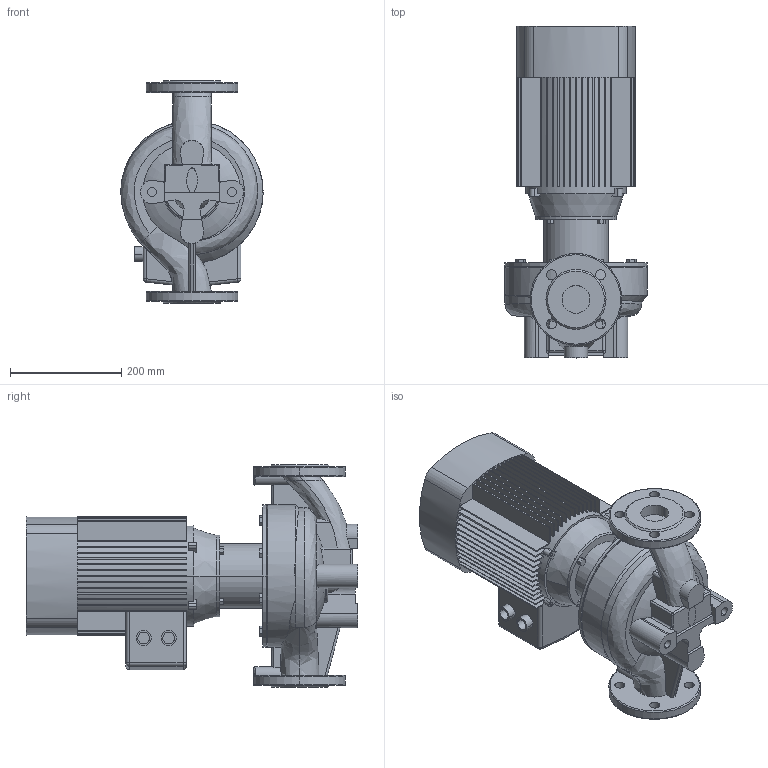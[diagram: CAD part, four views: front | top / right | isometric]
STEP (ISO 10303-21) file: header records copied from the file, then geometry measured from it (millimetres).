
FILE_DESCRIPTION (( 'STEP AP203' ), '1' );
FILE_NAME ('TD50-39G_2.STEP', '2022-05-02T14:53:37', ( '' ), ( '' ), 'SwSTEP 2.0', 'SolidWorks 2019', '' );
FILE_SCHEMA (( 'CONFIG_CONTROL_DESIGN' ));
Length unit declared in the file: millimetre
Products named in the file (4): ED_B14_YE2-112M-2 (4); Fon_50_TD50-39G_2; TD50-39G_2; Pr_ch 50_TD50-39G_2
Assembly tree (3 placements, depth 2):
  TD50-39G_2
    Pr_ch 50_TD50-39G_2
    Fon_50_TD50-39G_2
    ED_B14_YE2-112M-2 (4)
Bounding box: 256 x 597 x 400 mm (x, y, z)
Volume: 19237394.7 mm3; surface area: 1264532.9 mm2
Topology: 3 solids, 3 shells, 643 faces, 1754 edges, 1152 vertices
Faces by surface type: plane 422, cylinder 155, torus 25, bspline 24, cone 11, sphere 6
Entity records: 26415 total; most frequent: CARTESIAN_POINT 9555, ORIENTED_EDGE 3504, DIRECTION 3412, EDGE_CURVE 1752, AXIS2_PLACEMENT_3D 1199, VERTEX_POINT 1152, VECTOR 1014, LINE 1014
